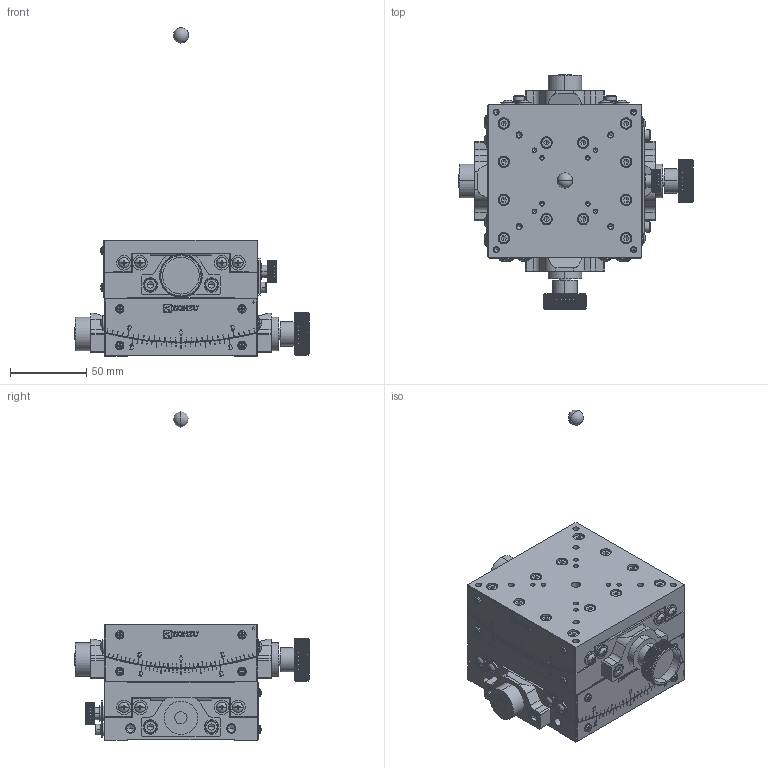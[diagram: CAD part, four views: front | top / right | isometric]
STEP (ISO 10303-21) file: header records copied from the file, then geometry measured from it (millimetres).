
FILE_DESCRIPTION( (''), '2;1');
FILE_NAME ('SH10A-RL.stp','2022-01-24T14:49:21',(''),(''),'spGate 17.5.5','','');
FILE_SCHEMA (('AUTOMOTIVE_DESIGN'));
Length unit declared in the file: millimetre
Products named in the file (5): Assembly; SH10A-RL-prt0; SH10A-RL-prt1; SH10A-RL-prt2; SH10A-RL-prt3
Assembly tree (4 placements, depth 2):
  Assembly
    SH10A-RL-prt0
    SH10A-RL-prt1
    SH10A-RL-prt2
    SH10A-RL-prt3
Bounding box: 153.5 x 153.5 x 215 mm (x, y, z)
Volume: 786057.7 mm3; surface area: 164527.1 mm2
Topology: 4 solids, 12 shells, 4410 faces, 11260 edges, 6981 vertices
Faces by surface type: plane 2622, cylinder 1116, bspline 622, sphere 50
Entity records: 232297 total; most frequent: CARTESIAN_POINT 46302, ORIENTED_EDGE 22070, DIRECTION 18178, COLOUR_RGB 15449, PRESENTATION_STYLE_ASSIGNMENT 15449, STYLED_ITEM 15449, EDGE_CURVE 11035, DRAUGHTING_PRE_DEFINED_CURVE_FONT 11035
